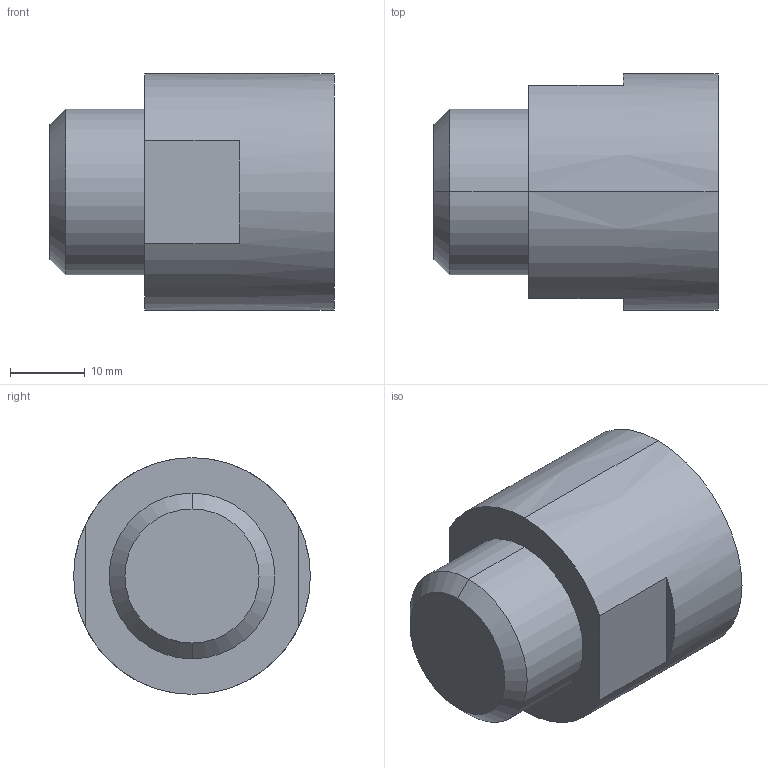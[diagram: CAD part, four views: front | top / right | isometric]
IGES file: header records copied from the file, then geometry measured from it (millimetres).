
Start section: SolidWorks IGES file using analytic representation for surfaces
Global section: file name: S:\Product Visuals\Defeatured Models and Parts Library\Parts Library IGES & STEP\Liquid Fittings\Front Mount liquid Fittings\Female NPT\30LPM\Fitting FNPT 08.IGS; native system: SolidWorks 2012; preprocessor: SolidWorks 2012; author: rachel.dressel; date: 120926.144050; units: inch
Bounding box: 38.09 x 31.75 x 31.75 mm (x, y, z)
Volume: 19628.1 mm3; surface area: 5938.3 mm2
Topology: 1 solids, 1 shells, 18 faces, 38 edges, 24 vertices
Faces by surface type: revolution 10, plane 8
